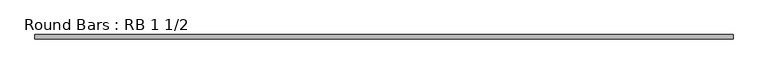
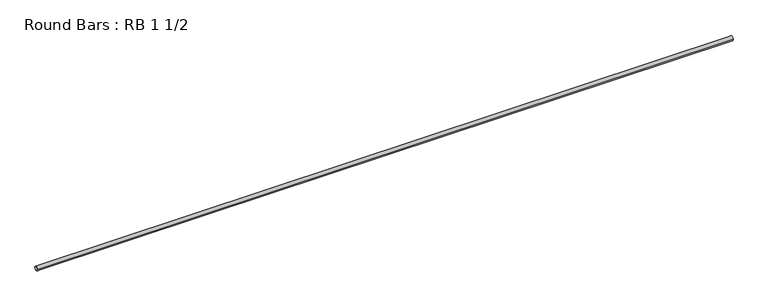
"""IFC4 building model written with IfcOpenShell, lengths in millimetres: member geometry, Round Bars : RB 1 1/2."""

from ifc_helpers import new_model, si_unit, point, frame, origin, origin_2d, place, context, project, spatial, circle_curve, trimmed, segment, composite_curve, outline, extrude, source, transform, mapped, element, save


def round_bars_rb_1_1_2_6163c6f7(model_context):
    return source(origin(), model_context, "Body", "SweptSolid", [
        extrude(outline(composite_curve([segment(trimmed(circle_curve(origin_2d(), 19.05), [point((19.05, 0.0))], [point((-19.05, 0.0))], False, "CARTESIAN"), True, "CONTINUOUS"), segment(trimmed(circle_curve(origin_2d(), 19.05), [point((-19.05, 0.0))], [point((19.05, 0.0))], False, "CARTESIAN"), True, "CONTINUOUS")], self_intersect=False)), frame((-3097.9769082, 0.0, 0.0), z_axis=(1.0, 0.0, 0.0), x_axis=(0.0, 1.0, 0.0)), (0.0, 0.0, 1.0), 6195.9538164),
    ])


if __name__ == "__main__":
    model = new_model("IFC4")
    model_context = context("Model", 3, world=origin())
    ifc_project = project(units=[si_unit("LENGTHUNIT", "METRE", prefix="MILLI")], contexts=[model_context])
    site = spatial("IfcSite", under=ifc_project)
    building = spatial("IfcBuilding", under=site)
    placement = place(None, origin())
    round_bars_rb_1_1_2_shape = round_bars_rb_1_1_2_6163c6f7(model_context)
    element("IfcMember", 1, ObjectType="Round Bars : RB 1 1/2", at=placement, inside=building, context=model_context, shape_type="MappedRepresentation", body=[
        mapped(round_bars_rb_1_1_2_shape, transform((0.0, 0.0, 0.0), x_axis=(1.0, 0.0, 0.0), y_axis=(0.0, 1.0, 0.0), z_axis=(0.0, 0.0, 1.0))),
    ])
    save(model, "model.ifc")
